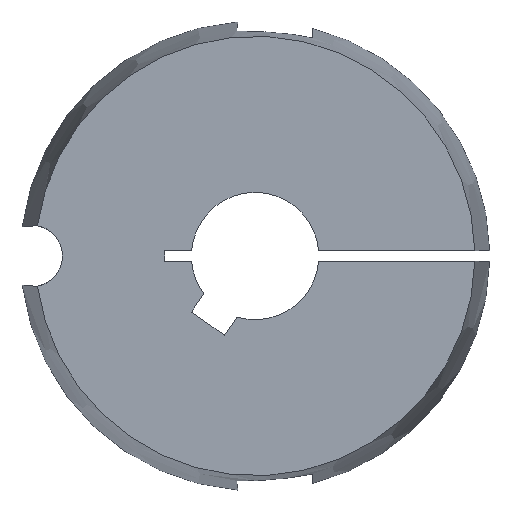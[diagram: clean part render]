
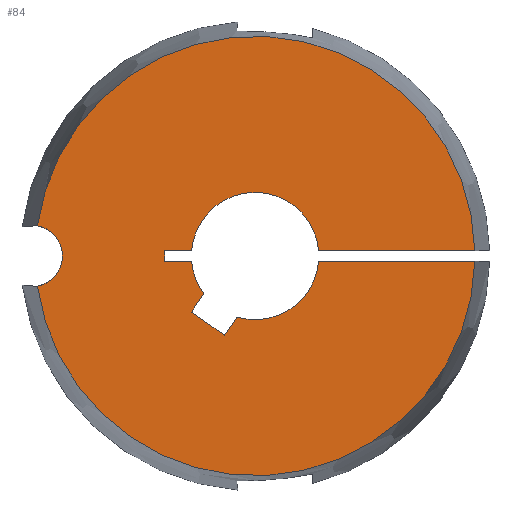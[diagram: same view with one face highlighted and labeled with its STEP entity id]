
A CAD part, left-side view. The second image highlights one B-rep face of the part: STEP entity #84.
In plain terms, the highlighted planar face has unit normal (-1, 0, 0).
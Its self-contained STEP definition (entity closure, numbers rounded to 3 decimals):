
#84 = ADVANCED_FACE( '', ( #114 ), #115, .F. );
#114 = FACE_OUTER_BOUND( '', #154, .T. );
#115 = PLANE( '', #155 );
#154 = EDGE_LOOP( '', ( #251, #252, #253, #254, #255, #256, #257, #258, #259, #260, #261, #262, #263, #264 ) );
#155 = AXIS2_PLACEMENT_3D( '', #265, #266, #267 );
#251 = ORIENTED_EDGE( '', *, *, #349, .T. );
#252 = ORIENTED_EDGE( '', *, *, #381, .F. );
#253 = ORIENTED_EDGE( '', *, *, #352, .T. );
#254 = ORIENTED_EDGE( '', *, *, #365, .T. );
#255 = ORIENTED_EDGE( '', *, *, #363, .T. );
#256 = ORIENTED_EDGE( '', *, *, #360, .T. );
#257 = ORIENTED_EDGE( '', *, *, #369, .T. );
#258 = ORIENTED_EDGE( '', *, *, #382, .T. );
#259 = ORIENTED_EDGE( '', *, *, #383, .T. );
#260 = ORIENTED_EDGE( '', *, *, #384, .T. );
#261 = ORIENTED_EDGE( '', *, *, #385, .T. );
#262 = ORIENTED_EDGE( '', *, *, #386, .T. );
#263 = ORIENTED_EDGE( '', *, *, #354, .T. );
#264 = ORIENTED_EDGE( '', *, *, #387, .F. );
#265 = CARTESIAN_POINT( '', ( -31.8, 0., 0. ) );
#266 = DIRECTION( '', ( 1., 0., 0. ) );
#267 = DIRECTION( '', ( 0., 0., -1. ) );
#349 = EDGE_CURVE( '', #402, #407, #409, .T. );
#352 = EDGE_CURVE( '', #415, #413, #416, .T. );
#354 = EDGE_CURVE( '', #418, #419, #420, .T. );
#360 = EDGE_CURVE( '', #431, #429, #432, .T. );
#363 = EDGE_CURVE( '', #436, #431, #437, .T. );
#365 = EDGE_CURVE( '', #413, #436, #439, .T. );
#369 = EDGE_CURVE( '', #429, #443, #445, .T. );
#381 = EDGE_CURVE( '', #415, #407, #465, .T. );
#382 = EDGE_CURVE( '', #443, #466, #467, .T. );
#383 = EDGE_CURVE( '', #466, #468, #469, .T. );
#384 = EDGE_CURVE( '', #468, #470, #471, .T. );
#385 = EDGE_CURVE( '', #470, #472, #473, .T. );
#386 = EDGE_CURVE( '', #472, #418, #474, .T. );
#387 = EDGE_CURVE( '', #402, #419, #475, .T. );
#402 = VERTEX_POINT( '', #521 );
#407 = VERTEX_POINT( '', #531 );
#409 = CIRCLE( '', #538, 4.6 );
#413 = VERTEX_POINT( '', #543 );
#415 = VERTEX_POINT( '', #546 );
#416 = LINE( '', #547, #548 );
#418 = VERTEX_POINT( '', #556 );
#419 = VERTEX_POINT( '', #557 );
#420 = LINE( '', #558, #559 );
#429 = VERTEX_POINT( '', #577 );
#431 = VERTEX_POINT( '', #580 );
#432 = LINE( '', #581, #582 );
#436 = VERTEX_POINT( '', #588 );
#437 = LINE( '', #589, #590 );
#439 = CIRCLE( '', #593, 9.5 );
#443 = VERTEX_POINT( '', #598 );
#445 = LINE( '', #601, #602 );
#465 = CIRCLE( '', #625, 32.776 );
#466 = VERTEX_POINT( '', #626 );
#467 = CIRCLE( '', #627, 9.5 );
#468 = VERTEX_POINT( '', #628 );
#469 = LINE( '', #629, #630 );
#470 = VERTEX_POINT( '', #631 );
#471 = LINE( '', #632, #633 );
#472 = VERTEX_POINT( '', #634 );
#473 = LINE( '', #635, #636 );
#474 = CIRCLE( '', #637, 9.5 );
#475 = CIRCLE( '', #638, 32.776 );
#521 = CARTESIAN_POINT( '', ( -31.8, 32.464, 4.516 ) );
#531 = CARTESIAN_POINT( '', ( -31.8, 32.464, -4.516 ) );
#538 = AXIS2_PLACEMENT_3D( '', #702, #703, #704 );
#543 = CARTESIAN_POINT( '', ( -31.8, -9.47, -0.75 ) );
#546 = CARTESIAN_POINT( '', ( -31.8, -32.768, -0.75 ) );
#547 = CARTESIAN_POINT( '', ( -31.8, -35., -0.75 ) );
#548 = VECTOR( '', #707, 1000. );
#556 = CARTESIAN_POINT( '', ( -31.8, -9.47, 0.75 ) );
#557 = CARTESIAN_POINT( '', ( -31.8, -32.768, 0.75 ) );
#558 = CARTESIAN_POINT( '', ( -31.8, 0., 0.75 ) );
#559 = VECTOR( '', #708, 1000. );
#577 = CARTESIAN_POINT( '', ( -31.8, 9.512, -8.355 ) );
#580 = CARTESIAN_POINT( '', ( -31.8, 4.598, -11.796 ) );
#581 = CARTESIAN_POINT( '', ( -31.8, 4.598, -11.796 ) );
#582 = VECTOR( '', #713, 1000. );
#588 = CARTESIAN_POINT( '', ( -31.8, 2.713, -9.104 ) );
#589 = CARTESIAN_POINT( '', ( -31.8, 2.713, -9.104 ) );
#590 = VECTOR( '', #716, 1000. );
#593 = AXIS2_PLACEMENT_3D( '', #718, #719, #720 );
#598 = CARTESIAN_POINT( '', ( -31.8, 7.628, -5.663 ) );
#601 = CARTESIAN_POINT( '', ( -31.8, 9.512, -8.355 ) );
#602 = VECTOR( '', #726, 1000. );
#625 = AXIS2_PLACEMENT_3D( '', #754, #755, #756 );
#626 = CARTESIAN_POINT( '', ( -31.8, 9.47, -0.75 ) );
#627 = AXIS2_PLACEMENT_3D( '', #757, #758, #759 );
#628 = CARTESIAN_POINT( '', ( -31.8, 13.5, -0.75 ) );
#629 = CARTESIAN_POINT( '', ( -31.8, 0., -0.75 ) );
#630 = VECTOR( '', #760, 1000. );
#631 = CARTESIAN_POINT( '', ( -31.8, 13.5, 0.75 ) );
#632 = CARTESIAN_POINT( '', ( -31.8, 13.5, -0.75 ) );
#633 = VECTOR( '', #761, 1000. );
#634 = CARTESIAN_POINT( '', ( -31.8, 9.47, 0.75 ) );
#635 = CARTESIAN_POINT( '', ( -31.8, 13.5, 0.75 ) );
#636 = VECTOR( '', #762, 1000. );
#637 = AXIS2_PLACEMENT_3D( '', #763, #764, #765 );
#638 = AXIS2_PLACEMENT_3D( '', #766, #767, #768 );
#702 = CARTESIAN_POINT( '', ( -31.8, 33.34, 0. ) );
#703 = DIRECTION( '', ( 1., 0., 0. ) );
#704 = DIRECTION( '', ( 0., 1., 0. ) );
#707 = DIRECTION( '', ( 0., 1., 0. ) );
#708 = DIRECTION( '', ( 0., -1., 0. ) );
#713 = DIRECTION( '', ( 0., 0.819, 0.574 ) );
#716 = DIRECTION( '', ( 0., 0.574, -0.819 ) );
#718 = CARTESIAN_POINT( '', ( -31.8, 0., 0. ) );
#719 = DIRECTION( '', ( 1., 0., 0. ) );
#720 = DIRECTION( '', ( 0., 0., -1. ) );
#726 = DIRECTION( '', ( 0., -0.574, 0.819 ) );
#754 = CARTESIAN_POINT( '', ( -31.8, 0., 0. ) );
#755 = DIRECTION( '', ( 1., 0., 0. ) );
#756 = DIRECTION( '', ( 0., 0., -1. ) );
#757 = CARTESIAN_POINT( '', ( -31.8, 0., 0. ) );
#758 = DIRECTION( '', ( 1., 0., 0. ) );
#759 = DIRECTION( '', ( 0., 0., -1. ) );
#760 = DIRECTION( '', ( 0., 1., 0. ) );
#761 = DIRECTION( '', ( 0., 0., 1. ) );
#762 = DIRECTION( '', ( 0., -1., 0. ) );
#763 = CARTESIAN_POINT( '', ( -31.8, 0., 0. ) );
#764 = DIRECTION( '', ( 1., 0., 0. ) );
#765 = DIRECTION( '', ( 0., 0., -1. ) );
#766 = CARTESIAN_POINT( '', ( -31.8, 0., 0. ) );
#767 = DIRECTION( '', ( 1., 0., 0. ) );
#768 = DIRECTION( '', ( 0., 0., -1. ) );
